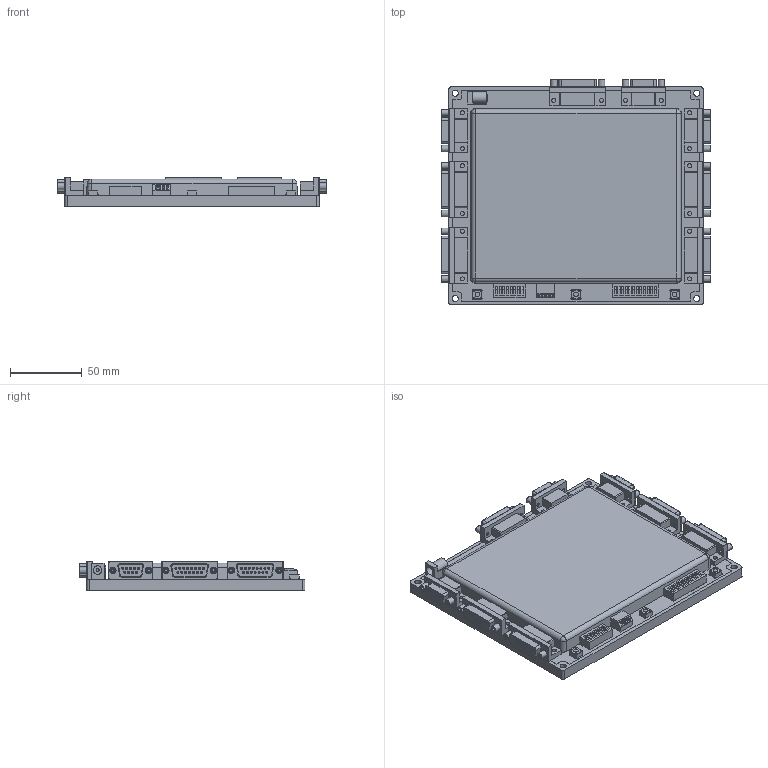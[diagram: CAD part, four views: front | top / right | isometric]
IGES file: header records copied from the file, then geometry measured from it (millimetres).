
Global section: file name: No Iges File Name specified; native system: AutoDesk Inventor R6.0; preprocessor: AutoDesk Inventor Iges Exporter R6.0; author: No Author specified; organization: No Organization specified; date: 20060101.210009; units: inch
Bounding box: 188.6 x 157.8 x 20.33 mm (x, y, z)
Surface area: 192388.3 mm2 (no closed solid volume)
Topology: 0 solids, 0 shells, 1634 faces, 6928 edges, 6510 vertices
Faces by surface type: plane 963, revolution 477, bspline 194
